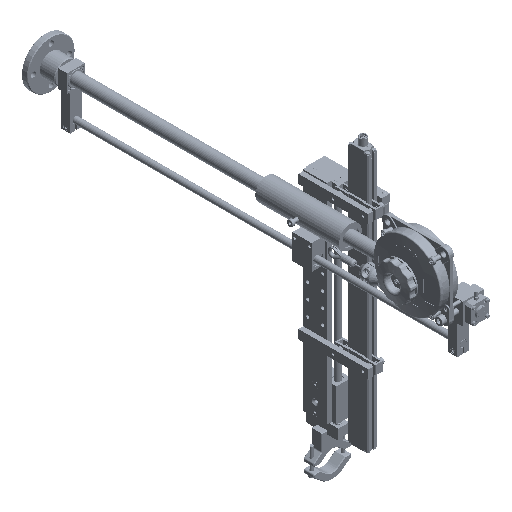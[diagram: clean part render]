
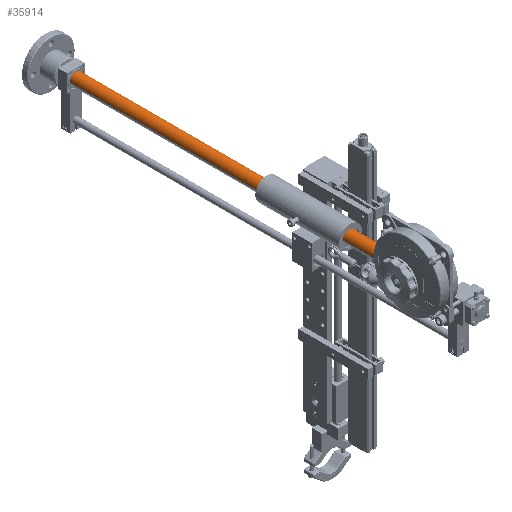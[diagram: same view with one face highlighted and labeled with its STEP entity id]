
A CAD part, isometric view. The second image highlights one B-rep face of the part: STEP entity #35914.
In plain terms, the highlighted cylindrical face has radius 10 mm (diameter 20 mm), a partial arc.
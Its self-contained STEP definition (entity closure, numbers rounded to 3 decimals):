
#6613 = EDGE_CURVE ( 'NONE', #42455, #266400, #85379, .T. ) ;
#9436 = DIRECTION ( 'NONE',  ( 0., -1., 0. ) ) ;
#17823 = LINE ( 'NONE', #60625, #46831 ) ;
#21525 = CIRCLE ( 'NONE', #266805, 10. ) ;
#25110 = EDGE_LOOP ( 'NONE', ( #122667, #265390, #65422, #142313 ) ) ;
#35914 = ADVANCED_FACE ( 'NONE', ( #93749 ), #70742, .T. ) ;
#40880 = EDGE_CURVE ( 'NONE', #46765, #42455, #17823, .T. ) ;
#42455 = VERTEX_POINT ( 'NONE', #203693 ) ;
#46436 = AXIS2_PLACEMENT_3D ( 'NONE', #223444, #183362, #201570 ) ;
#46765 = VERTEX_POINT ( 'NONE', #130596 ) ;
#46831 = VECTOR ( 'NONE', #81613, 1000. ) ;
#57865 = DIRECTION ( 'NONE',  ( 0., -1., 0. ) ) ;
#60625 = CARTESIAN_POINT ( 'NONE',  ( -10., 467.437, 0. ) ) ;
#60797 = AXIS2_PLACEMENT_3D ( 'NONE', #104237, #125117, #205145 ) ;
#65422 = ORIENTED_EDGE ( 'NONE', *, *, #40880, .T. ) ;
#70742 = CYLINDRICAL_SURFACE ( 'NONE', #46436, 10. ) ;
#81613 = DIRECTION ( 'NONE',  ( 0., -1., 0. ) ) ;
#85379 = CIRCLE ( 'NONE', #60797, 10. ) ;
#93749 = FACE_OUTER_BOUND ( 'NONE', #25110, .T. ) ;
#97110 = CARTESIAN_POINT ( 'NONE',  ( 0., 466.937, 0. ) ) ;
#104237 = CARTESIAN_POINT ( 'NONE',  ( 0., -232.063, 0. ) ) ;
#122667 = ORIENTED_EDGE ( 'NONE', *, *, #265242, .F. ) ;
#125117 = DIRECTION ( 'NONE',  ( 0., 1., 0. ) ) ;
#130596 = CARTESIAN_POINT ( 'NONE',  ( -10., 466.937, 0. ) ) ;
#139008 = DIRECTION ( 'NONE',  ( 1., 0., 0. ) ) ;
#142313 = ORIENTED_EDGE ( 'NONE', *, *, #6613, .T. ) ;
#154888 = LINE ( 'NONE', #175197, #193996 ) ;
#169083 = VERTEX_POINT ( 'NONE', #196008 ) ;
#175197 = CARTESIAN_POINT ( 'NONE',  ( 10., 467.437, 0. ) ) ;
#183362 = DIRECTION ( 'NONE',  ( 0., -1., 0. ) ) ;
#193996 = VECTOR ( 'NONE', #9436, 1000. ) ;
#196008 = CARTESIAN_POINT ( 'NONE',  ( 10., 466.937, 0. ) ) ;
#201570 = DIRECTION ( 'NONE',  ( -1., 0., 0. ) ) ;
#203693 = CARTESIAN_POINT ( 'NONE',  ( -10., -232.063, 0. ) ) ;
#205145 = DIRECTION ( 'NONE',  ( 1., 0., 0. ) ) ;
#218842 = EDGE_CURVE ( 'NONE', #169083, #46765, #21525, .T. ) ;
#223444 = CARTESIAN_POINT ( 'NONE',  ( 0., 467.437, 0. ) ) ;
#248197 = CARTESIAN_POINT ( 'NONE',  ( 10., -232.063, 0. ) ) ;
#265242 = EDGE_CURVE ( 'NONE', #169083, #266400, #154888, .T. ) ;
#265390 = ORIENTED_EDGE ( 'NONE', *, *, #218842, .T. ) ;
#266400 = VERTEX_POINT ( 'NONE', #248197 ) ;
#266805 = AXIS2_PLACEMENT_3D ( 'NONE', #97110, #57865, #139008 ) ;
